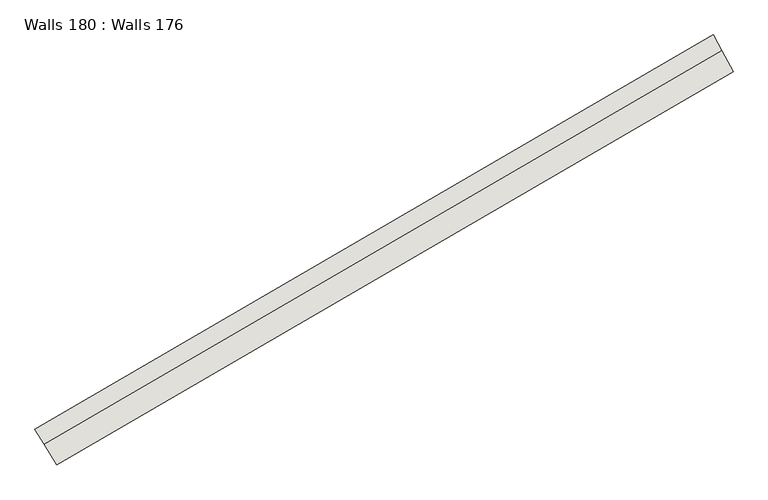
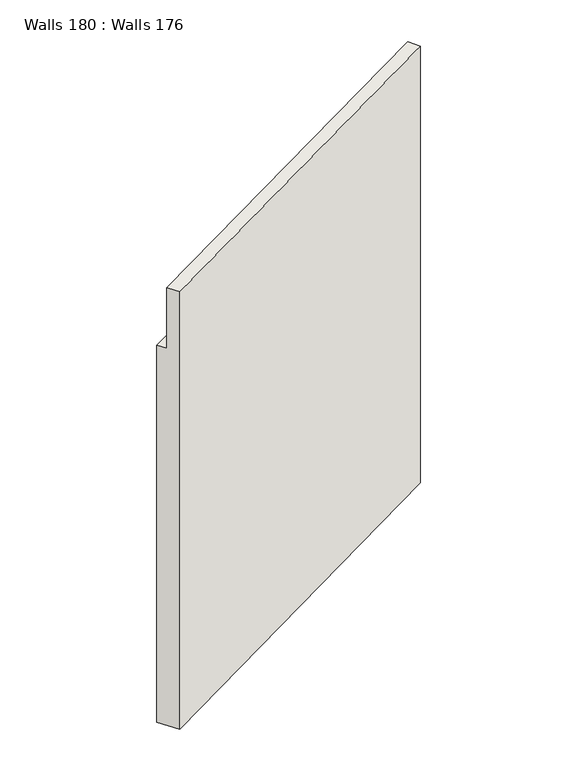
"""IFC4 building model written with IfcOpenShell, lengths in millimetres: wall geometry, Walls 180 : Walls 176."""

from ifc_helpers import new_model, si_unit, frame, origin, place, context, project, spatial, source, transform, mapped, element, save
from ifc_brep_helpers import plane_surface, spline_curve, spline_surface, advanced_brep


def walls_180_walls_176_377a7fdb(model_context):
    return source(origin(), model_context, "Body", "AdvancedBrep", [
        advanced_brep(
        [(241383.0214471, 182258.0375877, 648880.0237295), (241303.9165212, 182385.4772132, 648880.0237295), (241303.9165212, 182385.4772132, 642659.8029983), (241488.49556, 182088.116672, 642659.8029983), (241488.49556, 182088.116672, 649880.0237295), (241383.0214471, 182258.0375877, 649880.0237295), (247047.8292302, 185554.8690745, 648959.9548139), (247047.8292302, 185554.8690745, 649959.9548139), (247143.4688643, 185379.2246426, 649959.9548139), (247143.4688643, 185379.2246426, 642749.9548139), (246976.100102, 185686.6013015, 642749.9548139), (246976.100102, 185686.6013015, 648959.9548139)],
        [
            (0, 1),
            (1, 2),
            (2, 3),
            (3, 4),
            (4, 5),
            (5, 0),
            (6, 7),
            (7, 8),
            (8, 9),
            (9, 10),
            (10, 11),
            (11, 6),
            (11, 1, spline_curve(3, [(246976.100102, 185686.6013015, 648959.9548139), (245054.575217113, 184640.317426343, 648933.311119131), (243162.826959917, 183539.348875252, 648906.667424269), (241303.9165212, 182385.4772132, 648880.0237295)], [4, 4], [0.0, 21.521823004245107])),
            (0, 6, spline_curve(3, [(241383.0214471, 182258.0375877, 648880.0237295), (243239.514660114, 183410.408817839, 648906.667424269), (245128.802990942, 184509.945730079, 648933.311119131), (247047.8292302, 185554.8690745, 648959.9548139)], [4, 4], [0.0, 21.521823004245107])),
            (10, 2, spline_curve(3, [(246976.100102, 185686.6013015, 642749.9548139), (245054.575217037, 184640.317426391, 642719.904208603), (243162.826959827, 183539.348874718, 642689.853603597), (241303.9165212, 182385.4772132, 642659.8029983)], [4, 4], [0.0, 21.536033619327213])),
            (9, 3, spline_curve(3, [(247143.4688643, 185379.2246426, 642749.9548139), (245227.774180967, 184336.115353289, 642719.904208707), (243341.765778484, 183238.487310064, 642689.853603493), (241488.49556, 182088.116672, 642659.8029983)], [4, 4], [0.0, 21.503591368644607])),
            (8, 4, spline_curve(3, [(247143.4688643, 185379.2246426, 649959.9548139), (245227.774180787, 184336.115353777, 649933.311118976), (243341.765778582, 183238.48730984, 649906.667424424), (241488.49556, 182088.116672, 649880.0237295)], [4, 4], [0.0, 21.470700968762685])),
            (7, 5, spline_curve(3, [(247047.8292302, 185554.8690745, 649959.9548139), (245128.802991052, 184509.945729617, 649933.31111879), (243239.514660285, 183410.408817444, 649906.66742461), (241383.0214471, 182258.0375877, 649880.0237295)], [4, 4], [0.0, 21.489156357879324])),
        ],
        [
            plane_surface(frame((241391.8111761, 182243.8771577, 647139.9501525), z_axis=(-0.8496268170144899, -0.5273843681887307, 0.0), x_axis=(-0.5273843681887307, 0.8496268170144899, 0.0))),
            plane_surface(frame((247055.7993988, 185540.2316729, 647223.2881472), z_axis=(0.8782451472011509, 0.4782106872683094, 0.0), x_axis=(-0.4782106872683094, 0.8782451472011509, 0.0))),
            spline_surface(3, 3, [[(247047.8292302, 185554.8690745, 648959.9548139), (245128.80299121, 184509.945729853, 648933.311119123), (243239.514660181, 183410.408817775, 648906.667424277), (241383.0214471, 182258.0375877, 648880.0237295)], [(247023.919520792, 185598.779816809, 648959.9548139), (245104.060399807, 184553.402962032, 648933.311119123), (243213.952093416, 183453.388836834, 648906.667424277), (241356.653138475, 182300.517462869, 648880.0237295)], [(247000.009811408, 185642.690559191, 648959.9548139), (245079.317808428, 184596.860194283, 648933.311119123), (243188.389526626, 183496.368855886, 648906.667424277), (241330.284829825, 182342.997338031, 648880.0237295)], [(246976.100102, 185686.6013015, 648959.9548139), (245054.575217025, 184640.317426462, 648933.311119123), (243162.826959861, 183539.348874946, 648906.667424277), (241303.9165212, 182385.4772132, 648880.0237295)]], [4, 4], [4, 4], [0.0, 0.4921089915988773], [0.0, 21.521823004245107]),
            spline_surface(3, 3, [[(246976.100102, 185686.6013015, 648959.9548139), (245054.575217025, 184640.317426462, 648933.311119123), (243162.826959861, 183539.348874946, 648906.667424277), (241303.9165212, 182385.4772132, 648880.0237295)], [(246976.100102, 185686.6013015, 646889.954813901), (245054.575217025, 184640.317426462, 646862.175482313), (243162.826959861, 183539.348874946, 646834.396150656), (241303.9165212, 182385.4772132, 646806.616819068)], [(246976.100102, 185686.6013015, 644819.9548139), (245054.575217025, 184640.317426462, 644791.039845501), (243162.826959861, 183539.348874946, 644762.12487713), (241303.9165212, 182385.4772132, 644733.209908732)], [(246976.100102, 185686.6013015, 642749.9548139), (245054.575217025, 184640.317426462, 642719.904208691), (243162.826959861, 183539.348874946, 642689.853603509), (241303.9165212, 182385.4772132, 642659.8029983)]], [4, 4], [4, 4], [0.0, 20.39078203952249], [0.0, 21.536033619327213]),
            spline_surface(3, 3, [[(246976.100102, 185686.6013015, 642749.9548139), (245054.575217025, 184640.317426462, 642719.904208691), (243162.826959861, 183539.348874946, 642689.853603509), (241303.9165212, 182385.4772132, 642659.8029983)], [(247031.889689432, 185584.142415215, 642749.9548139), (245112.308205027, 184538.916735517, 642719.904208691), (243222.473232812, 183439.061686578, 642689.853603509), (241365.442867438, 182286.357032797, 642659.8029983)], [(247087.679276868, 185481.683528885, 642749.9548139), (245170.041193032, 184437.516044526, 642719.904208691), (243282.11950585, 183338.77449822, 642689.853603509), (241426.969213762, 182187.236852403, 642659.8029983)], [(247143.4688643, 185379.2246426, 642749.9548139), (245227.774181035, 184336.115353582, 642719.904208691), (243341.765778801, 183238.487309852, 642689.853603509), (241488.49556, 182088.116672, 642659.8029983)]], [4, 4], [4, 4], [0.0, 1.1482597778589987], [0.0, 21.503591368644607]),
            spline_surface(3, 3, [[(247143.4688643, 185379.2246426, 642749.9548139), (245227.774181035, 184336.115353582, 642719.904208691), (243341.765778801, 183238.487309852, 642689.853603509), (241488.49556, 182088.116672, 642659.8029983)], [(247143.4688643, 185379.2246426, 645153.288147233), (245227.774181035, 184336.115353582, 645124.373178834), (243341.765778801, 183238.487309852, 645095.458210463), (241488.49556, 182088.116672, 645066.543242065)], [(247143.4688643, 185379.2246426, 647556.621480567), (245227.774181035, 184336.115353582, 647528.84214898), (243341.765778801, 183238.487309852, 647501.062817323), (241488.49556, 182088.116672, 647473.283485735)], [(247143.4688643, 185379.2246426, 649959.9548139), (245227.774181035, 184336.115353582, 649933.311119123), (243341.765778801, 183238.487309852, 649906.667424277), (241488.49556, 182088.116672, 649880.0237295)]], [4, 4], [4, 4], [0.0, 23.671621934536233], [0.0, 21.470700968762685]),
            spline_surface(3, 3, [[(247143.4688643, 185379.2246426, 649959.9548139), (245227.774181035, 184336.115353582, 649933.311119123), (243341.765778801, 183238.487309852, 649906.667424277), (241488.49556, 182088.116672, 649880.0237295)], [(247111.588986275, 185437.772786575, 649959.9548139), (245194.783784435, 184394.058812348, 649933.311119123), (243307.682072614, 183295.79447916, 649906.667424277), (241453.337522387, 182144.756977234, 649880.0237295)], [(247079.709108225, 185496.320930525, 649959.9548139), (245161.79338781, 184452.002271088, 649933.311119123), (243273.598366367, 183353.101648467, 649906.667424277), (241418.179484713, 182201.397282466, 649880.0237295)], [(247047.8292302, 185554.8690745, 649959.9548139), (245128.80299121, 184509.945729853, 649933.311119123), (243239.514660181, 183410.408817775, 649906.667424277), (241383.0214471, 182258.0375877, 649880.0237295)]], [4, 4], [4, 4], [0.0, 0.6561507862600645], [0.0, 21.489156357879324]),
            spline_surface(3, 3, [[(247047.8292302, 185554.8690745, 649959.9548139), (245128.80299121, 184509.945729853, 649933.311119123), (243239.514660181, 183410.408817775, 649906.667424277), (241383.0214471, 182258.0375877, 649880.0237295)], [(247047.8292302, 185554.8690745, 649626.621480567), (245128.80299121, 184509.945729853, 649599.97778579), (243239.514660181, 183410.408817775, 649573.334090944), (241383.0214471, 182258.0375877, 649546.690396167)], [(247047.8292302, 185554.8690745, 649293.288147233), (245128.80299121, 184509.945729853, 649266.644452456), (243239.514660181, 183410.408817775, 649240.00075761), (241383.0214471, 182258.0375877, 649213.357062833)], [(247047.8292302, 185554.8690745, 648959.9548139), (245128.80299121, 184509.945729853, 648933.311119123), (243239.514660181, 183410.408817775, 648906.667424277), (241383.0214471, 182258.0375877, 648880.0237295)]], [4, 4], [4, 4], [0.0, 3.2808398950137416], [0.0, 21.507823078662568]),
        ],
        [
            (0, [[1, 2, 3, 4, 5, 6]]),
            (1, [[7, 8, 9, 10, 11, 12]]),
            (2, [[-12, 13, -1, 14]]),
            (3, [[-11, 15, -2, -13]]),
            (4, [[-10, 16, -3, -15]]),
            (5, [[-9, 17, -4, -16]]),
            (6, [[-8, 18, -5, -17]]),
            (7, [[-7, -14, -6, -18]]),
        ],
    ),
    ])


if __name__ == "__main__":
    model = new_model("IFC4")
    model_context = context("Model", 3, world=origin())
    ifc_project = project(units=[si_unit("LENGTHUNIT", "METRE", prefix="MILLI")], contexts=[model_context])
    site = spatial("IfcSite", under=ifc_project)
    building = spatial("IfcBuilding", under=site)
    placement = place(None, origin())
    walls_180_walls_176_shape = walls_180_walls_176_377a7fdb(model_context)
    element("IfcWall", 1, ObjectType="Walls 180 : Walls 176", at=placement, inside=building, context=model_context, shape_type="MappedRepresentation", body=[
        mapped(walls_180_walls_176_shape, transform((0.0, 0.0, 0.0), x_axis=(1.0, 0.0, 0.0), y_axis=(0.0, 1.0, 0.0), z_axis=(0.0, 0.0, 1.0))),
    ])
    save(model, "model.ifc")
